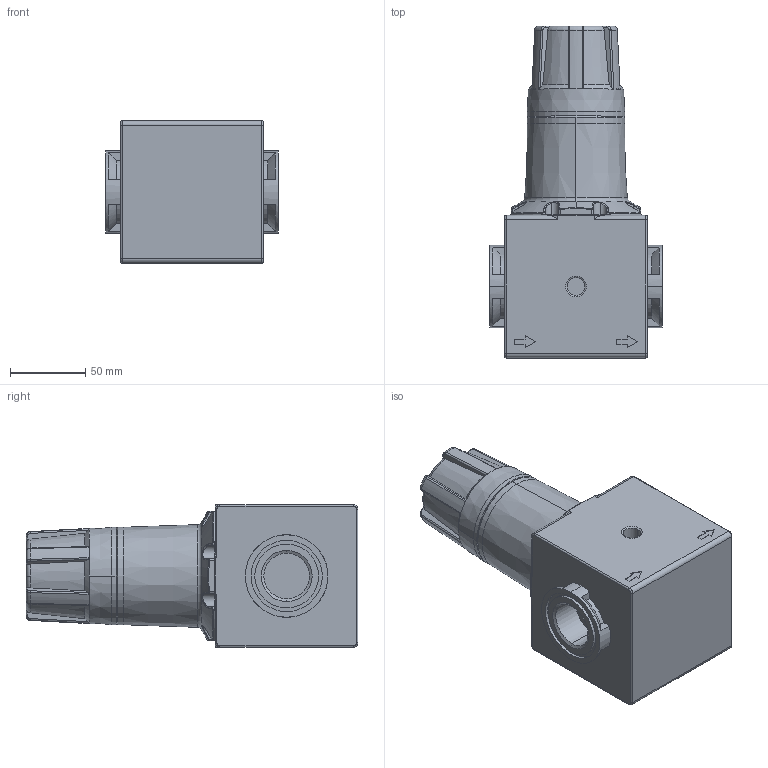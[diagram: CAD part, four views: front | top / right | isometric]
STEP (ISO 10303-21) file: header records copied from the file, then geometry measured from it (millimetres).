
FILE_DESCRIPTION (( 'STEP AP214' ), '1' );
FILE_NAME ('0950100001.STEP', '2009-03-31T09:56:15', ( ' ' ), ( '' ), 'SwSTEP 2.0', 'SolidWorks 2009', '' );
FILE_SCHEMA (( 'AUTOMOTIVE_DESIGN' ));
Length unit declared in the file: millimetre
Products named in the file (1): 0950100001
Bounding box: 115 x 221.2 x 95 mm (x, y, z)
Volume: 1277696.8 mm3; surface area: 89085.7 mm2
Topology: 1 solids, 1 shells, 411 faces, 1009 edges, 614 vertices
Faces by surface type: cylinder 134, plane 104, bspline 76, torus 53, cone 44
Entity records: 16983 total; most frequent: CARTESIAN_POINT 6703, ORIENTED_EDGE 2018, DIRECTION 1762, EDGE_CURVE 1009, AXIS2_PLACEMENT_3D 705, VERTEX_POINT 614, EDGE_LOOP 425, FACE_OUTER_BOUND 411
